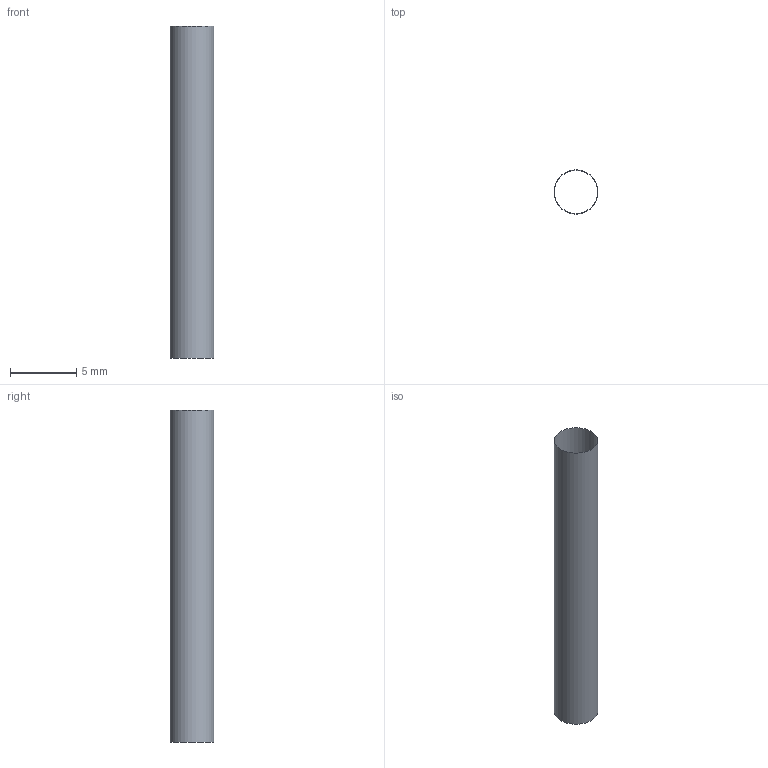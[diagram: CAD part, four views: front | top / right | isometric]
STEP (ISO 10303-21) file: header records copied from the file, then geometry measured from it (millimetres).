
FILE_DESCRIPTION(/* description */ ('STEP AP242 Edition 2','CAx-IF Rec.Pracs.---Representation and Presentation of Product Manufacturing Information (PMI)---4.0---2014-10-13','CAx-IF Rec.Pracs.---3D Tessellated Geometry---0.4---2014-09-14','2;1','CAx-IF Rec.Pracs.---User Defined Attributes---1.5---2016-08-15'),/* implementation_level */ '2;1');
FILE_NAME(/* name */ 'gripper v1 parts - Surface 2',/* time_stamp */ '2026-09-28T10:11:11Z',/* author */ (''),/* organization */ (''),/* preprocessor_version */ 'ST-DEVELOPER v20',/* originating_system */ 'ONSHAPE BY PTC INC, 1.221',/* authorisation */ ' ');
FILE_SCHEMA (('AP242_MANAGED_MODEL_BASED_3D_ENGINEERING_MIM_LF { 1 0 10303 442 3 1 4 }'));
Length unit declared in the file: metre
Products named in the file (1): Surface 2
Bounding box: 3.3 x 3.3 x 25 mm (x, y, z)
Surface area: 259.2 mm2 (no closed solid volume)
Topology: 0 solids, 1 shells, 1 faces, 3 edges, 2 vertices
Faces by surface type: cylinder 1
Full cylindrical faces by diameter (mm): 3.3 x1
Entity records: 58 total; most frequent: DIRECTION 8, CARTESIAN_POINT 6, AXIS2_PLACEMENT_3D 4, ORIENTED_EDGE 2, EDGE_CURVE 2, VERTEX_POINT 2, CIRCLE 2, EDGE_LOOP 2
